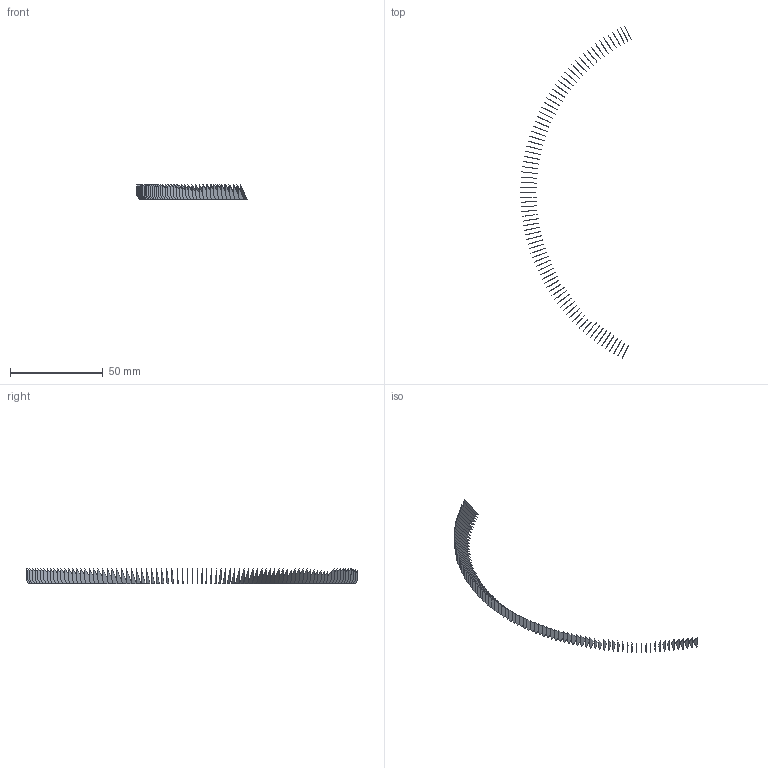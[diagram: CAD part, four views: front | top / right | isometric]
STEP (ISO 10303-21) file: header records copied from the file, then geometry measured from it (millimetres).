
FILE_DESCRIPTION(('FreeCAD Model'),'2;1');
FILE_NAME('Open CASCADE Shape Model','2022-05-21T09:27:59',('FreeCAD'),( 'FreeCAD'),'Open CASCADE STEP processor 7.5','FreeCAD','Unknown');
FILE_SCHEMA(('AUTOMOTIVE_DESIGN { 1 0 10303 214 1 1 1 1 }'));
Length unit declared in the file: millimetre
Products named in the file (85): Open CASCADE STEP translator 7.5 1; Open CASCADE STEP translator 7.5 1.1; Open CASCADE STEP translator 7.5 1.2; Open CASCADE STEP translator 7.5 1.3; Open CASCADE STEP translator 7.5 1.4; Open CASCADE STEP translator 7.5 1.5; Open CASCADE STEP translator 7.5 1.6; Open CASCADE STEP translator 7.5 1.7; Open CASCADE STEP translator 7.5 1.8; Open CASCADE STEP translator 7.5 1.9; Open CASCADE STEP translator 7.5 1.10; Open CASCADE STEP translator 7.5 1.11; Open CASCADE STEP translator 7.5 1.12; Open CASCADE STEP translator 7.5 1.13; Open CASCADE STEP translator 7.5 1.14; Open CASCADE STEP translator 7.5 1.15; Open CASCADE STEP translator 7.5 1.16; Open CASCADE STEP translator 7.5 1.17; Open CASCADE STEP translator 7.5 1.18; Open CASCADE STEP translator 7.5 1.19; Open CASCADE STEP translator 7.5 1.20; Open CASCADE STEP translator 7.5 1.21; Open CASCADE STEP translator 7.5 1.22; Open CASCADE STEP translator 7.5 1.23; Open CASCADE STEP translator 7.5 1.24; Open CASCADE STEP translator 7.5 1.25; Open CASCADE STEP translator 7.5 1.26; Open CASCADE STEP translator 7.5 1.27; Open CASCADE STEP translator 7.5 1.28; Open CASCADE STEP translator 7.5 1.29; Open CASCADE STEP translator 7.5 1.30; Open CASCADE STEP translator 7.5 1.31; Open CASCADE STEP translator 7.5 1.32; Open CASCADE STEP translator 7.5 1.33; Open CASCADE STEP translator 7.5 1.34; Open CASCADE STEP translator 7.5 1.35; Open CASCADE STEP translator 7.5 1.36; Open CASCADE STEP translator 7.5 1.37; Open CASCADE STEP translator 7.5 1.38; Open CASCADE STEP translator 7.5 1.39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
Assembly tree (84 placements, depth 2):
  Open CASCADE STEP translator 7.5 1
    Open CASCADE STEP translator 7.5 1.1
    Open CASCADE STEP translator 7.5 1.2
    Open CASCADE STEP translator 7.5 1.3
    Open CASCADE STEP translator 7.5 1.4
    Open CASCADE STEP translator 7.5 1.5
    Open CASCADE STEP translator 7.5 1.6
    Open CASCADE STEP translator 7.5 1.7
    Open CASCADE STEP translator 7.5 1.8
    Open CASCADE STEP translator 7.5 1.9
    Open CASCADE STEP translator 7.5 1.10
    Open CASCADE STEP translator 7.5 1.11
    Open CASCADE STEP translator 7.5 1.12
    Open CASCADE STEP translator 7.5 1.13
    Open CASCADE STEP translator 7.5 1.14
    Open CASCADE STEP translator 7.5 1.15
    Open CASCADE STEP translator 7.5 1.16
    Open CASCADE STEP translator 7.5 1.17
    Open CASCADE STEP translator 7.5 1.18
    Open CASCADE STEP translator 7.5 1.19
    Open CASCADE STEP translator 7.5 1.20
    Open CASCADE STEP translator 7.5 1.21
    Open CASCADE STEP translator 7.5 1.22
    Open CASCADE STEP translator 7.5 1.23
    Open CASCADE STEP translator 7.5 1.24
    Open CASCADE STEP translator 7.5 1.25
    Open CASCADE STEP translator 7.5 1.26
    Open CASCADE STEP translator 7.5 1.27
    Open CASCADE STEP translator 7.5 1.28
    Open CASCADE STEP translator 7.5 1.29
    Open CASCADE STEP translator 7.5 1.30
    Open CASCADE STEP translator 7.5 1.31
    Open CASCADE STEP translator 7.5 1.32
    Open CASCADE STEP translator 7.5 1.33
    Open CASCADE STEP translator 7.5 1.34
    Open CASCADE STEP translator 7.5 1.35
    Open CASCADE STEP translator 7.5 1.36
    Open CASCADE STEP translator 7.5 1.37
    Open CASCADE STEP translator 7.5 1.38
    Open CASCADE STEP translator 7.5 1.39
    Open CASCADE STEP translator 7.5 1.40
    Open CASCADE STEP translator 7.5 1.41
    Open CASCADE STEP translator 7.5 1.42
    Open CASCADE STEP translator 7.5 1.43
    Open CASCADE STEP translator 7.5 1.44
    Open CASCADE STEP translator 7.5 1.45
    Open CASCADE STEP translator 7.5 1.46
    Open CASCADE STEP translator 7.5 1.47
    Open CASCADE STEP translator 7.5 1.48
    Open CASCADE STEP translator 7.5 1.49
    Open CASCADE STEP translator 7.5 1.50
    Open CASCADE STEP translator 7.5 1.51
    Open CASCADE STEP translator 7.5 1.52
    Open CASCADE STEP translator 7.5 1.53
    Open CASCADE STEP translator 7.5 1.54
    Open CASCADE STEP translator 7.5 1.55
    Open CASCADE STEP translator 7.5 1.56
    Open CASCADE STEP translator 7.5 1.57
    Open CASCADE STEP translator 7.5 1.58
    Open CASCADE STEP translator 7.5 1.59
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Bounding box: 59.47 x 178.81 x 8.3 mm (x, y, z)
Surface area: 2568.4 mm2 (no closed solid volume)
Topology: 0 solids, 84 shells, 84 faces, 7544 edges, 7544 vertices
Faces by surface type: bspline 84
Entity records: 100440 total; most frequent: CARTESIAN_POINT 38141, B_SPLINE_CURVE_WITH_KNOTS 15088, ORIENTED_EDGE 7544, EDGE_CURVE 7544, VERTEX_POINT 7544, SURFACE_CURVE 7544, PCURVE 7544, DEFINITIONAL_REPRESENTATION 7544
